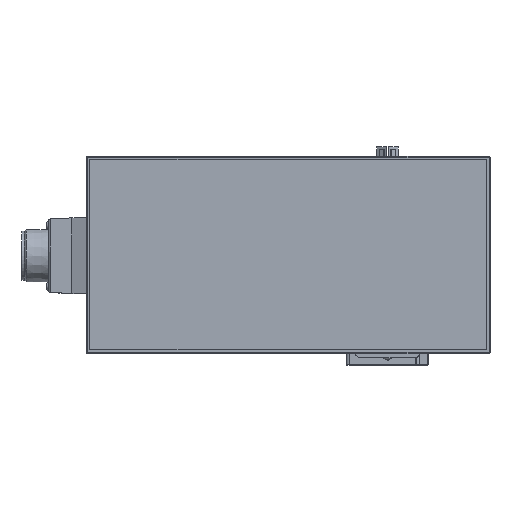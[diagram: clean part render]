
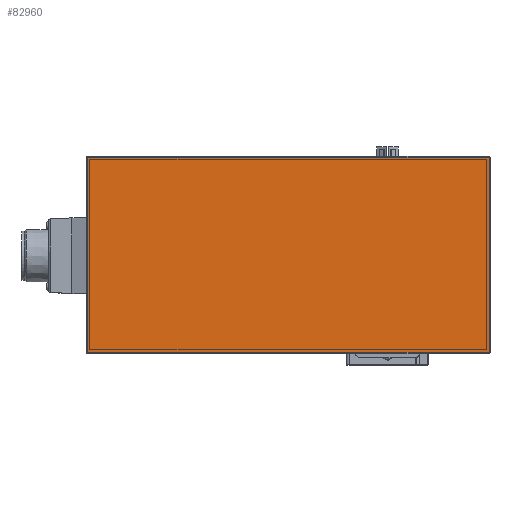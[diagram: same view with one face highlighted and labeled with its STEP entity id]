
A CAD part, top view. The second image highlights one B-rep face of the part: STEP entity #82960.
In plain terms, the highlighted planar face has unit normal (0, 0, 1).
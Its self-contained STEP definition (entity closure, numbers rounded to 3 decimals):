
#82921=CARTESIAN_POINT('',(-60.,62.5,568.));
#82922=DIRECTION('',(0.,1.,0.));
#82923=DIRECTION('',(0.,-0.,1.));
#82924=AXIS2_PLACEMENT_3D('',#82921,#82923,#82922);
#82925=PLANE('',#82924);
#82926=CARTESIAN_POINT('',(-181.5,-59.,568.));
#82927=VERTEX_POINT('',#82926);
#82928=CARTESIAN_POINT('',(61.5,-59.,568.));
#82929=VERTEX_POINT('',#82928);
#82930=CARTESIAN_POINT('',(-181.5,-59.,568.));
#82931=DIRECTION('',(1.,0.,0.));
#82932=VECTOR('',#82931,243.);
#82933=LINE('',#82930,#82932);
#82934=EDGE_CURVE('',#82927,#82929,#82933,.T.);
#82935=ORIENTED_EDGE('E7844',*,*,#82934,.T.);
#82936=CARTESIAN_POINT('',(61.5,59.,568.));
#82937=VERTEX_POINT('',#82936);
#82938=CARTESIAN_POINT('',(61.5,-59.,568.));
#82939=DIRECTION('',(0.,1.,0.));
#82940=VECTOR('',#82939,118.);
#82941=LINE('',#82938,#82940);
#82942=EDGE_CURVE('',#82929,#82937,#82941,.T.);
#82943=ORIENTED_EDGE('E7845',*,*,#82942,.T.);
#82944=CARTESIAN_POINT('',(-181.5,59.,568.));
#82945=VERTEX_POINT('',#82944);
#82946=CARTESIAN_POINT('',(61.5,59.,568.));
#82947=DIRECTION('',(-1.,0.,0.));
#82948=VECTOR('',#82947,243.);
#82949=LINE('',#82946,#82948);
#82950=EDGE_CURVE('',#82937,#82945,#82949,.T.);
#82951=ORIENTED_EDGE('E7846',*,*,#82950,.T.);
#82952=CARTESIAN_POINT('',(-181.5,59.,568.));
#82953=DIRECTION('',(0.,-1.,0.));
#82954=VECTOR('',#82953,118.);
#82955=LINE('',#82952,#82954);
#82956=EDGE_CURVE('',#82945,#82927,#82955,.T.);
#82957=ORIENTED_EDGE('E7847',*,*,#82956,.T.);
#82958=EDGE_LOOP('',(#82935,#82943,#82951,#82957));
#82959=FACE_OUTER_BOUND('',#82958,.T.);
#82960=ADVANCED_FACE('F3038',(#82959),#82925,.T.);
